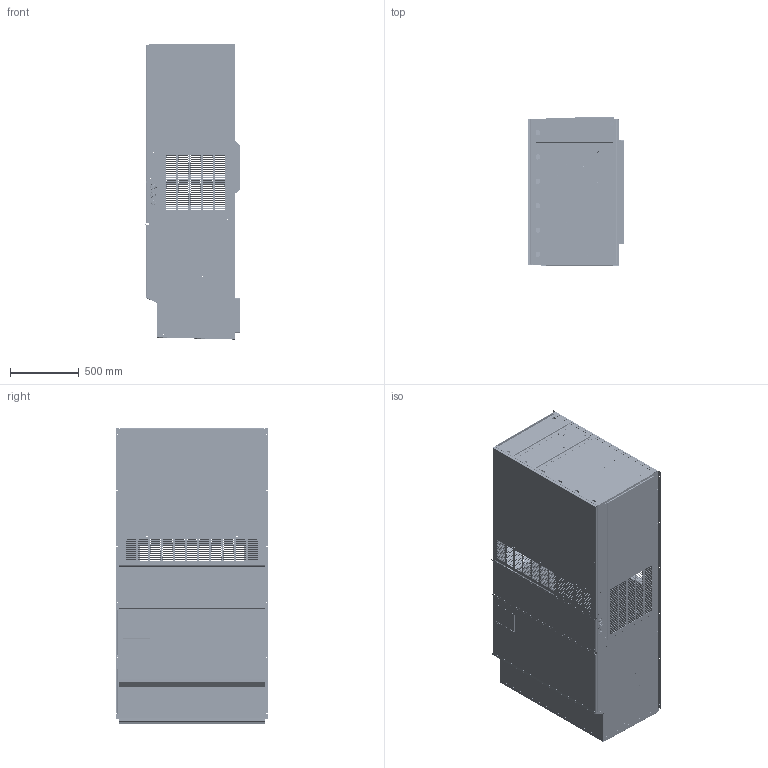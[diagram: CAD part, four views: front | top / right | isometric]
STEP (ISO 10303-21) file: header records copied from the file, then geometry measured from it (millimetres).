
FILE_DESCRIPTION (( 'STEP AP214' ), '1' );
FILE_NAME ('C36-42HY Recessed.STEP', '2023-03-21T11:49:27', ( '' ), ( '' ), 'SwSTEP 2.0', 'SolidWorks 2022', '' );
FILE_SCHEMA (( 'AUTOMOTIVE_DESIGN' ));
Length unit declared in the file: inch
Products named in the file (30): 1012-221, hex flange nut; 114-355; 164-608; 102-542; 5451-018; toggle lock; 112-762; 112-764; 140-356; 527-616; 1171-070; 142-248; 113Y956; 114-354; 108-411; 132-301; 100-1142; 113X956; 106-413; 108-412; 112-763; 118-126; 142-221; 110-298; 100-1143; 126-616_Alt Punching Method; C36-42HY Recessed; 152-724; 118-125; 111-299_NO HEATER BRACKETS
Assembly tree (56 placements, depth 3):
  C36-42HY Recessed
    527-616
      126-616_Alt Punching Method
      102-542  x2
      140-356
      5451-018  x4
      1012-221, hex flange nut  x8
      112-762
    100-1142
    100-1143
    142-221
    114-354
    114-355
    142-248
    106-413
    118-125
    164-608
    132-301
    1171-070  x8
    113X956
    113Y956
    108-412
    108-411
    111-299_NO HEATER BRACKETS
      110-298  x2
      112-763
      112-764
      toggle lock  x8
    118-126  x2
    152-724
Bounding box: 698.29 x 1111.92 x 2152.98 mm (x, y, z)
Volume: 9287829.9 mm3; surface area: 19999062.3 mm2
Topology: 326 solids, 326 shells, 10387 faces, 26469 edges, 16767 vertices
Faces by surface type: plane 5662, cylinder 3252, torus 744, cone 536, bspline 177, sphere 16
Entity records: 219343 total; most frequent: CARTESIAN_POINT 41221, DIRECTION 37668, ORIENTED_EDGE 35442, EDGE_CURVE 17721, AXIS2_PLACEMENT_3D 13286, VERTEX_POINT 11179, VECTOR 11096, LINE 11096
